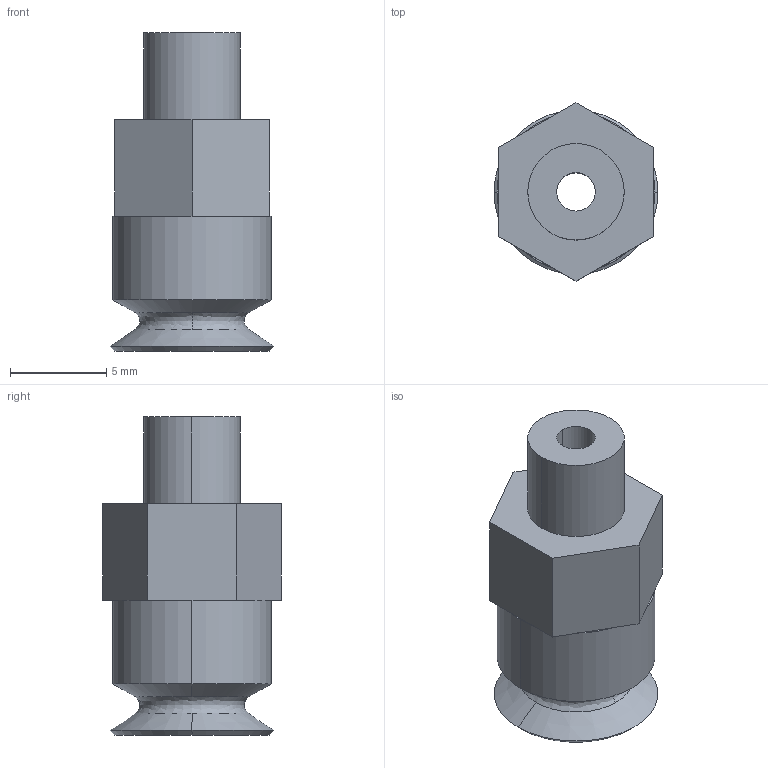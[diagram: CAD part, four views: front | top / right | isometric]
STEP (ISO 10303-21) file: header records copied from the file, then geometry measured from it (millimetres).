
FILE_DESCRIPTION (( 'STEP AP203' ), '1' );
FILE_NAME ('PFYN-25-NBR-55.STEP', '2024-02-29T06:31:53', ( '微软用户' ), ( '微软中国' ), 'SwSTEP 2.0', 'SolidWorks 2018', '' );
FILE_SCHEMA (( 'CONFIG_CONTROL_DESIGN' ));
Length unit declared in the file: millimetre
Products named in the file (3): 1; 1_2; PFYN-25-NBR-55
Assembly tree (2 placements, depth 2):
  PFYN-25-NBR-55
    1
    1_2
Bounding box: 8.5 x 9.24 x 16.5 mm (x, y, z)
Volume: 606.6 mm3; surface area: 890.7 mm2
Topology: 2 solids, 2 shells, 42 faces, 92 edges, 58 vertices
Faces by surface type: cylinder 16, plane 14, cone 10, bspline 2
Entity records: 1523 total; most frequent: CARTESIAN_POINT 263, DIRECTION 222, ORIENTED_EDGE 184, EDGE_CURVE 92, AXIS2_PLACEMENT_3D 89, VERTEX_POINT 58, EDGE_LOOP 50, VECTOR 44
